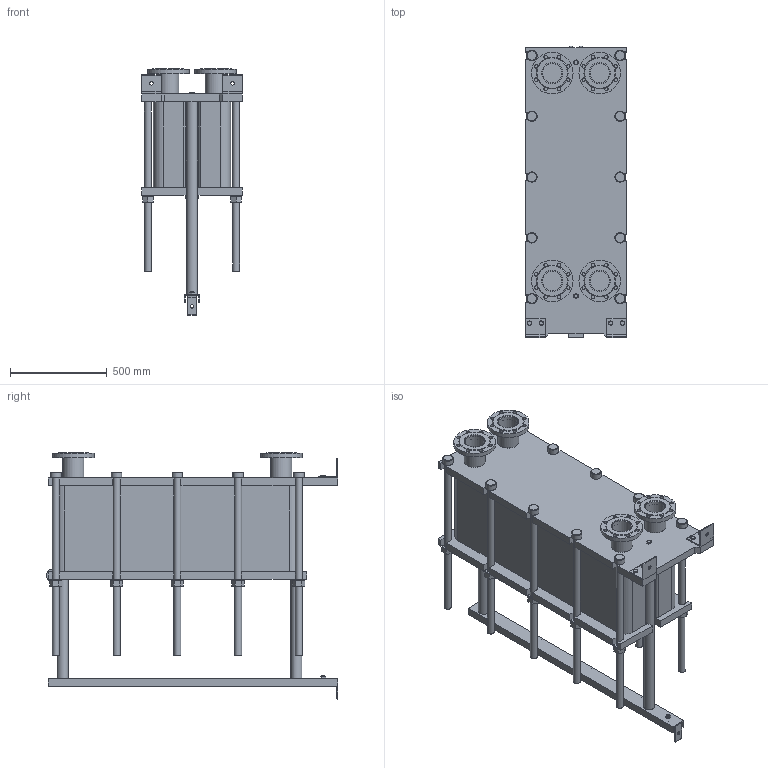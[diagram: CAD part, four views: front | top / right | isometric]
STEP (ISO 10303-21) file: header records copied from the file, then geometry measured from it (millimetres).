
FILE_DESCRIPTION(/* description */ (''),/* implementation_level */ '2;1');
FILE_NAME(/* name */ 'C:\Users\zhuro\Desktop\ENCO\TO\ЭН-04\ЭН-0,5-04-129-1.stp',/* time_stamp */ '2022-06-06T10:56:57+03:00',/* author */ ('zhuro'),/* organization */ (''),/* preprocessor_version */ 'ST-DEVELOPER v18.1',/* originating_system */ 'Autodesk Inventor 2022',/* authorisation */ '');
FILE_SCHEMA (('AUTOMOTIVE_DESIGN { 1 0 10303 214 3 1 1 }'));
Length unit declared in the file: millimetre
Products named in the file (1): ЭН-0,5-04-129-1
Bounding box: 520 x 1510 x 1274.5 mm (x, y, z)
Volume: 295183403.1 mm3; surface area: 8992974.7 mm2
Topology: 45 solids, 45 shells, 668 faces, 1611 edges, 1048 vertices
Faces by surface type: plane 457, cylinder 166, cone 39, torus 6
Full cylindrical faces by diameter (mm): 8 x4, 10 x2, 16 x8, 18 x35, 36 x25, 40 x2, 42 x1, 45 x4, 54 x10, 57 x2, 60 x10, 68 x2, 100 x4, 110 x8, 215 x4
Entity records: 23607 total; most frequent: CARTESIAN_POINT 7348, DIRECTION 3371, ORIENTED_EDGE 3142, EDGE_CURVE 1571, AXIS2_PLACEMENT_3D 1199, VERTEX_POINT 1044, LINE 973, VECTOR 973
